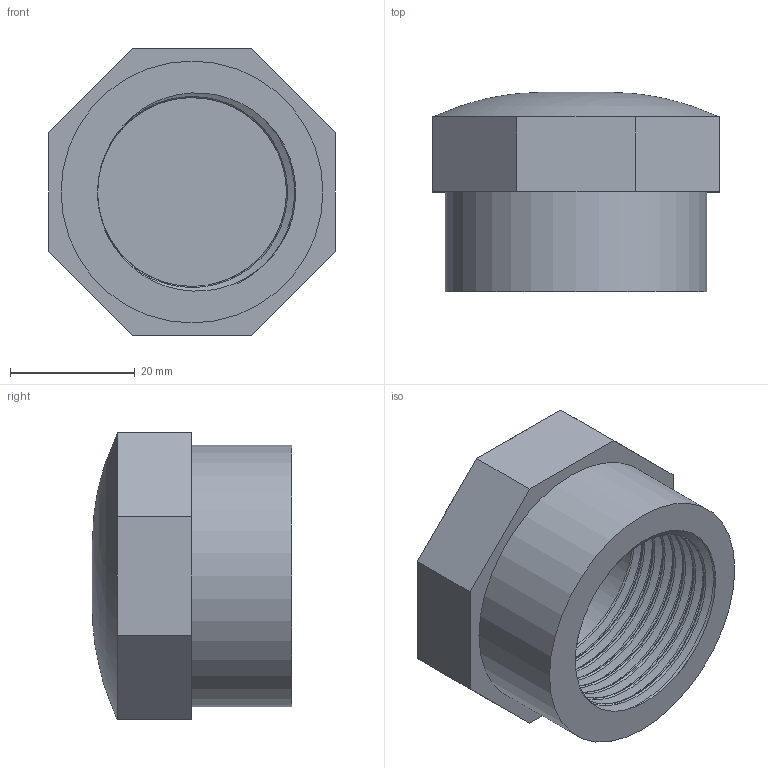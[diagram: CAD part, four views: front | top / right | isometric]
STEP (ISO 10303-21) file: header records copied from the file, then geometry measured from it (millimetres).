
FILE_DESCRIPTION(/* description */ ('PVC calotta filettata BSP'),/* implementation_level */ '2;1');
FILE_NAME(/* name */ 'C:\Users\POLYPIPE\Desktop\DATASET INVENTOR\LIBRERIA EFFAST\RACCORDI 3DxWEB\RER\3D_RERCAE\3D_RERCAE032D.stp',/* time_stamp */ '2018-01-19T15:57:15+01:00',/* author */ ('POLYPIPE'),/* organization */ ('Polypipe Italia s.r.l.'),/* preprocessor_version */ 'ST-DEVELOPER v16.1',/* originating_system */ 'Autodesk Inventor 2016',/* authorisation */ '');
FILE_SCHEMA (('CONFIG_CONTROL_DESIGN'));
Length unit declared in the file: millimetre
Products named in the file (1): 3D_RERCAE
Bounding box: 46 x 32 x 46 mm (x, y, z)
Volume: 28503.9 mm3; surface area: 11085.1 mm2
Topology: 1 solids, 1 shells, 30 faces, 68 edges, 42 vertices
Faces by surface type: plane 21, bspline 6, cylinder 3
Full cylindrical faces by diameter (mm): 10 x1, 30.291 x1, 42 x1
Entity records: 3839 total; most frequent: CARTESIAN_POINT 3190, ORIENTED_EDGE 128, DIRECTION 119, EDGE_CURVE 64, AXIS2_PLACEMENT_3D 42, VERTEX_POINT 41, LINE 35, VECTOR 35
